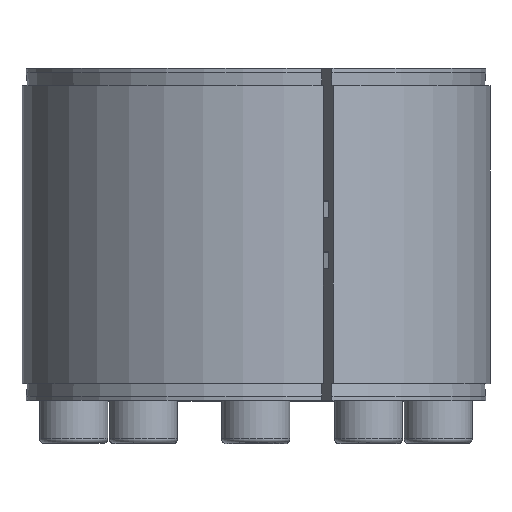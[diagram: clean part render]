
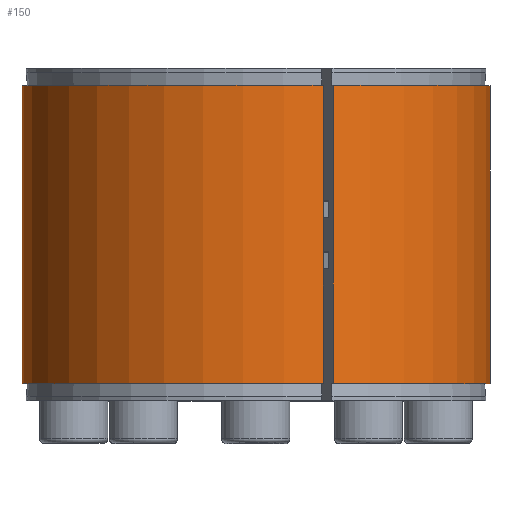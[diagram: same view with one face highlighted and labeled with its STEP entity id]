
A CAD part, top view. The second image highlights one B-rep face of the part: STEP entity #150.
In plain terms, the highlighted cylindrical face has radius 55 mm (diameter 110 mm), a partial arc.
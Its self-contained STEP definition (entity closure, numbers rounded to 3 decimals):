
#150 = ADVANCED_FACE( '', ( #362 ), #363, .T. );
#362 = FACE_OUTER_BOUND( '', #636, .T. );
#363 = CYLINDRICAL_SURFACE( '', #637, 55. );
#636 = EDGE_LOOP( '', ( #1048, #1049, #1050, #1051 ) );
#637 = AXIS2_PLACEMENT_3D( '', #1052, #1053, #1054 );
#1048 = ORIENTED_EDGE( '', *, *, #1370, .F. );
#1049 = ORIENTED_EDGE( '', *, *, #1414, .T. );
#1050 = ORIENTED_EDGE( '', *, *, #1395, .F. );
#1051 = ORIENTED_EDGE( '', *, *, #1385, .F. );
#1052 = CARTESIAN_POINT( '', ( 0., -60., 0. ) );
#1053 = DIRECTION( '', ( 0., 1., 0. ) );
#1054 = DIRECTION( '', ( 0., 0., -1. ) );
#1370 = EDGE_CURVE( '', #1659, #1661, #1662, .T. );
#1385 = EDGE_CURVE( '', #1661, #1683, #1684, .T. );
#1395 = EDGE_CURVE( '', #1683, #1696, #1697, .F. );
#1414 = EDGE_CURVE( '', #1659, #1696, #1725, .T. );
#1659 = VERTEX_POINT( '', #2093 );
#1661 = VERTEX_POINT( '', #2096 );
#1662 = LINE( '', #2097, #2098 );
#1683 = VERTEX_POINT( '', #2122 );
#1684 = CIRCLE( '', #2123, 55. );
#1696 = VERTEX_POINT( '', #2137 );
#1697 = LINE( '', #2138, #2139 );
#1725 = CIRCLE( '', #2182, 55. );
#2093 = CARTESIAN_POINT( '', ( 15.803, 74., 52.681 ) );
#2096 = CARTESIAN_POINT( '', ( 15.803, 4., 52.681 ) );
#2097 = CARTESIAN_POINT( '', ( 15.803, -60., 52.681 ) );
#2098 = VECTOR( '', #2425, 1000. );
#2122 = CARTESIAN_POINT( '', ( 18.18, 4., 51.908 ) );
#2123 = AXIS2_PLACEMENT_3D( '', #2447, #2448, #2449 );
#2137 = CARTESIAN_POINT( '', ( 18.18, 74., 51.908 ) );
#2138 = CARTESIAN_POINT( '', ( 18.18, -60., 51.908 ) );
#2139 = VECTOR( '', #2458, 1000. );
#2182 = AXIS2_PLACEMENT_3D( '', #2477, #2478, #2479 );
#2425 = DIRECTION( '', ( 0., -1., 0. ) );
#2447 = CARTESIAN_POINT( '', ( 0., 4., 0. ) );
#2448 = DIRECTION( '', ( 0., -1., 0. ) );
#2449 = DIRECTION( '', ( 0., 0., -1. ) );
#2458 = DIRECTION( '', ( 0., -1., 0. ) );
#2477 = CARTESIAN_POINT( '', ( 0., 74., 0. ) );
#2478 = DIRECTION( '', ( 0., -1., 0. ) );
#2479 = DIRECTION( '', ( 0., 0., -1. ) );
